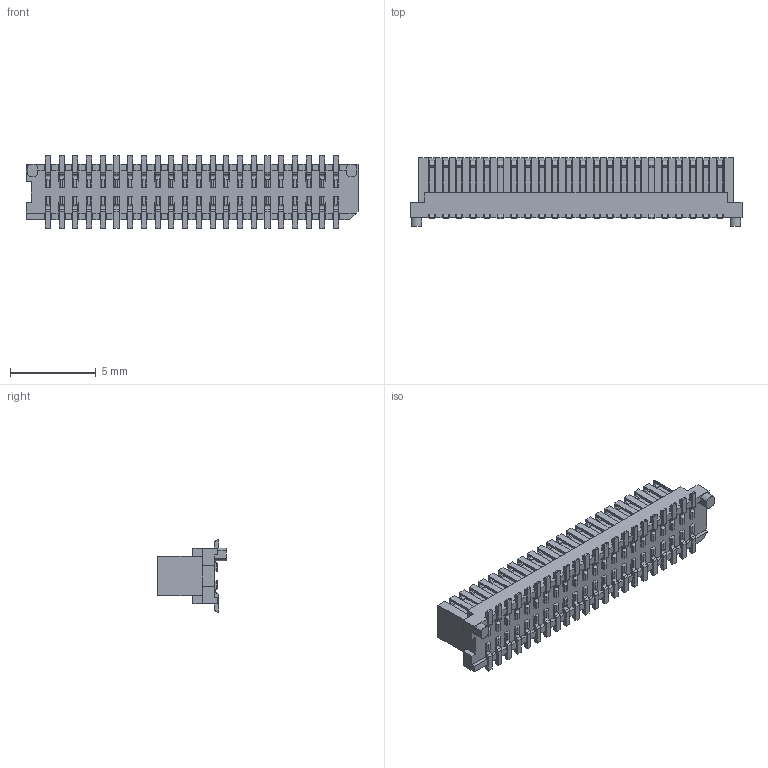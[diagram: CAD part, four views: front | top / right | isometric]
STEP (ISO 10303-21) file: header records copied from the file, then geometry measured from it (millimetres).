
FILE_DESCRIPTION (( 'STEP AP203' ), '1' );
FILE_NAME ('HC-PBB08-1-44-M-S-H3.55-XX-R-P-06 (BTB0.8 单槽 公座 立式侧插 座高3.55mm 编带 带柱)-HCTL.STEP', '2025-12-09T06:55:00', ( '' ), ( '' ), 'SwSTEP 2.0', 'SolidWorks 2025', '' );
FILE_SCHEMA (( 'CONFIG_CONTROL_DESIGN' ));
Products named in the file (1): HC-PBB08-1-44-M-S-H3.55-XX-R-P-06 (BTB0.8 单槽 公座 立式侧插 座高3.55mm 编带 带柱)-HCTL
Bounding box: 19.35 x 4 x 4.21 mm (x, y, z)
Volume: 156 mm3; surface area: 679 mm2
Topology: 1 solids, 1 shells, 1451 faces, 4785 edges, 3160 vertices
Faces by surface type: plane 1139, cylinder 312
Entity records: 52134 total; most frequent: CARTESIAN_POINT 9661, ORIENTED_EDGE 9570, DIRECTION 8227, EDGE_CURVE 4785, VECTOR 4071, LINE 4071, VERTEX_POINT 3160, AXIS2_PLACEMENT_3D 2078
